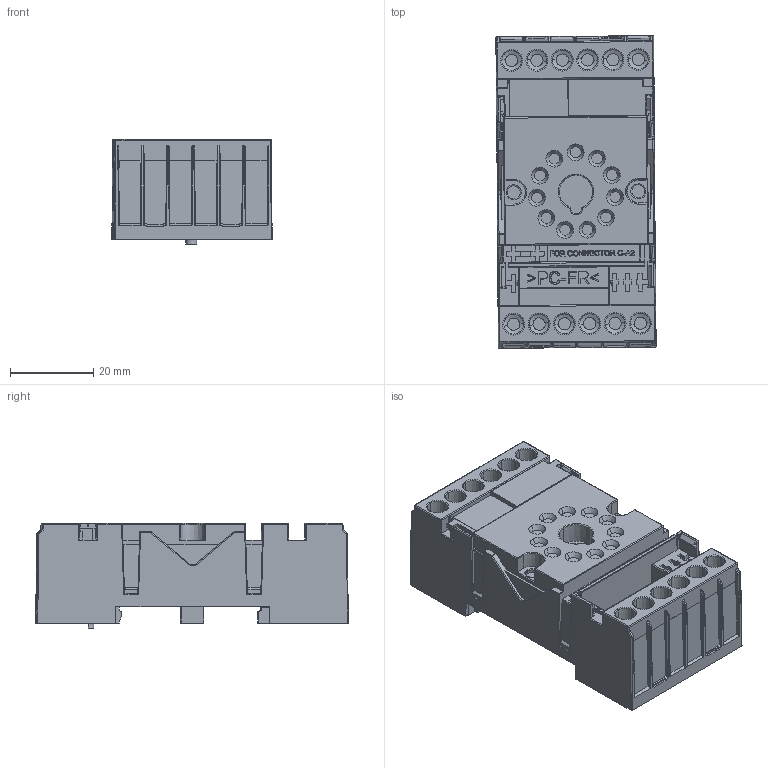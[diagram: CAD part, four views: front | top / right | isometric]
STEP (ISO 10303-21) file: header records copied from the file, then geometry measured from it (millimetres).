
FILE_DESCRIPTION (( 'STEP AP214' ), '1' );
FILE_NAME ('C11-12.STEP', '2014-03-31T13:25:30', ( '' ), ( '' ), 'SwSTEP 2.0', 'SolidWorks 2014', '' );
FILE_SCHEMA (( 'AUTOMOTIVE_DESIGN' ));
Length unit declared in the file: millimetre
Products named in the file (1): C11-12
Bounding box: 38.59 x 75.3 x 25.3 mm (x, y, z)
Volume: 55247.4 mm3; surface area: 15318.2 mm2
Topology: 1 solids, 1 shells, 1450 faces, 3695 edges, 2307 vertices
Faces by surface type: plane 715, cylinder 346, bspline 212, cone 93, sphere 44, torus 40
Entity records: 68424 total; most frequent: CARTESIAN_POINT 19729, ORIENTED_EDGE 7366, DIRECTION 5971, EDGE_CURVE 3683, VECTOR 2451, LINE 2451, VERTEX_POINT 2307, AXIS2_PLACEMENT_3D 1760
